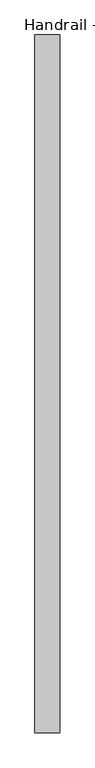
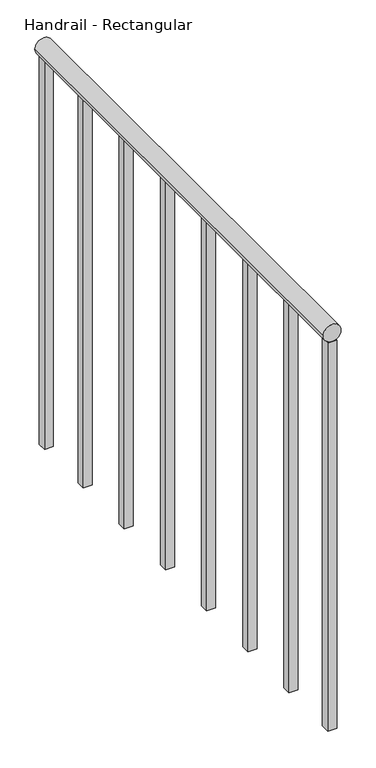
"""IFC4 building model written with IfcOpenShell, lengths in millimetres: railing geometry, Handrail - Rectangular."""

from ifc_helpers import new_model, si_unit, point, frame, frame_2d, origin, place, context, project, spatial, polyline, circle_curve, trimmed, segment, composite_curve, outline, extrude, source, transform, mapped, element, save


def handrail_rectangular_1c239291(model_context):
    return source(origin(), model_context, "Body", "SweptSolid", [
        extrude(outline(composite_curve([segment(trimmed(circle_curve(frame_2d((3943.35, -32167.4839563)), 19.05), [point((3943.35, -32186.5339563))], [point((3943.35, -32148.4339563))], False, "CARTESIAN"), True, "CONTINUOUS"), segment(trimmed(circle_curve(frame_2d((3943.35, -32167.4839563)), 19.05), [point((3943.35, -32148.4339563))], [point((3943.35, -32186.5339563))], False, "CARTESIAN"), True, "CONTINUOUS")], self_intersect=False)), frame((0.0, -35349.9683133, 0.0), z_axis=(0.0, 1.0, 0.0), x_axis=(0.0, 0.0, 1.0)), (0.0, 0.0, 1.0), 1066.8),
        extrude(outline(polyline([(-32157.9589563, -34445.0933133), (-32177.0089563, -34445.0933133), (-32177.0089563, -34426.0433133), (-32157.9589563, -34426.0433133), (-32157.9589563, -34445.0933133)])), frame((0.0, 0.0, 3048.0), z_axis=(0.0, 0.0, 1.0), x_axis=(1.0, 0.0, 0.0)), (0.0, 0.0, 1.0), 876.3),
        extrude(outline(polyline([(-32157.9589563, -34597.4933133), (-32177.0089563, -34597.4933133), (-32177.0089563, -34578.4433133), (-32157.9589563, -34578.4433133), (-32157.9589563, -34597.4933133)])), frame((0.0, 0.0, 3048.0), z_axis=(0.0, 0.0, 1.0), x_axis=(1.0, 0.0, 0.0)), (0.0, 0.0, 1.0), 876.3),
        extrude(outline(polyline([(-32157.9589563, -34749.8933133), (-32177.0089563, -34749.8933133), (-32177.0089563, -34730.8433133), (-32157.9589563, -34730.8433133), (-32157.9589563, -34749.8933133)])), frame((0.0, 0.0, 3048.0), z_axis=(0.0, 0.0, 1.0), x_axis=(1.0, 0.0, 0.0)), (0.0, 0.0, 1.0), 876.3),
        extrude(outline(polyline([(-32157.9589563, -34902.2933133), (-32177.0089563, -34902.2933133), (-32177.0089563, -34883.2433133), (-32157.9589563, -34883.2433133), (-32157.9589563, -34902.2933133)])), frame((0.0, 0.0, 3048.0), z_axis=(0.0, 0.0, 1.0), x_axis=(1.0, 0.0, 0.0)), (0.0, 0.0, 1.0), 876.3),
        extrude(outline(polyline([(-32157.9589563, -35054.6933133), (-32177.0089563, -35054.6933133), (-32177.0089563, -35035.6433133), (-32157.9589563, -35035.6433133), (-32157.9589563, -35054.6933133)])), frame((0.0, 0.0, 3048.0), z_axis=(0.0, 0.0, 1.0), x_axis=(1.0, 0.0, 0.0)), (0.0, 0.0, 1.0), 876.3),
        extrude(outline(polyline([(-32157.9589563, -35207.0933133), (-32177.0089563, -35207.0933133), (-32177.0089563, -35188.0433133), (-32157.9589563, -35188.0433133), (-32157.9589563, -35207.0933133)])), frame((0.0, 0.0, 3048.0), z_axis=(0.0, 0.0, 1.0), x_axis=(1.0, 0.0, 0.0)), (0.0, 0.0, 1.0), 876.3),
        extrude(outline(polyline([(-32157.9589563, -34302.2183133), (-32177.0089563, -34302.2183133), (-32177.0089563, -34283.1683133), (-32157.9589563, -34283.1683133), (-32157.9589563, -34302.2183133)])), frame((0.0, 0.0, 3048.0), z_axis=(0.0, 0.0, 1.0), x_axis=(1.0, 0.0, 0.0)), (0.0, 0.0, 1.0), 876.3),
        extrude(outline(polyline([(-32157.9589563, -35349.9683133), (-32177.0089563, -35349.9683133), (-32177.0089563, -35330.9183133), (-32157.9589563, -35330.9183133), (-32157.9589563, -35349.9683133)])), frame((0.0, 0.0, 3048.0), z_axis=(0.0, 0.0, 1.0), x_axis=(1.0, 0.0, 0.0)), (0.0, 0.0, 1.0), 876.3),
    ])


if __name__ == "__main__":
    model = new_model("IFC4")
    model_context = context("Model", 3, world=origin())
    ifc_project = project(units=[si_unit("LENGTHUNIT", "METRE", prefix="MILLI")], contexts=[model_context])
    site = spatial("IfcSite", under=ifc_project)
    building = spatial("IfcBuilding", under=site)
    placement = place(None, origin())
    handrail_rectangular_shape = handrail_rectangular_1c239291(model_context)
    element("IfcRailing", 1, ObjectType="Handrail - Rectangular", at=placement, inside=building, context=model_context, shape_type="MappedRepresentation", body=[
        mapped(handrail_rectangular_shape, transform((0.0, 0.0, 0.0), x_axis=(1.0, 0.0, 0.0), y_axis=(0.0, 1.0, 0.0), z_axis=(0.0, 0.0, 1.0))),
    ])
    save(model, "model.ifc")
